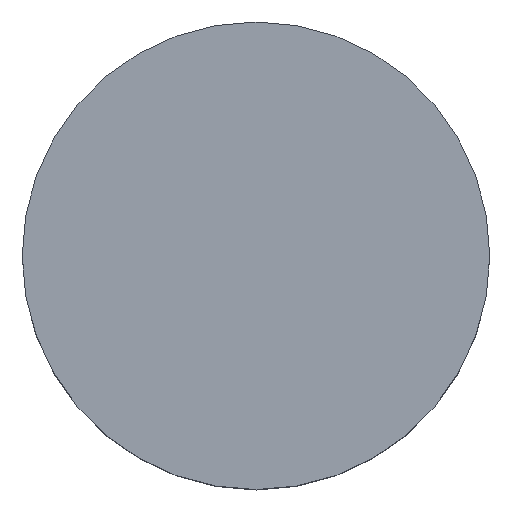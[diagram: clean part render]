
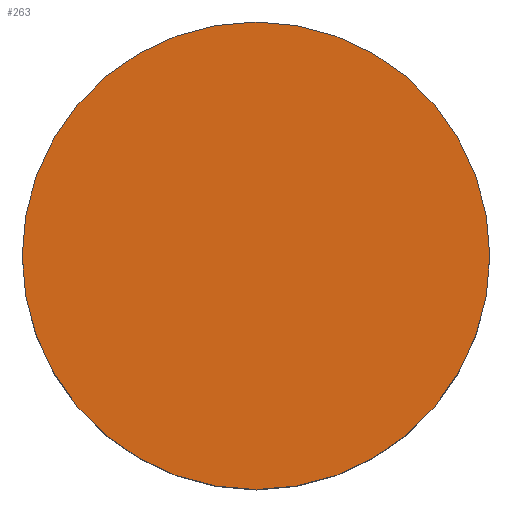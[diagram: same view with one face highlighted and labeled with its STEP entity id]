
A CAD part, top view. The second image highlights one B-rep face of the part: STEP entity #263.
In plain terms, the highlighted planar face has unit normal (0, 0, 1).
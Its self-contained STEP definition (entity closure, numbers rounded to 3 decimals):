
#32=PLANE('',#315);
#70=FACE_OUTER_BOUND('',#101,.T.);
#101=EDGE_LOOP('',(#222));
#131=CIRCLE('',#314,28.5);
#153=VERTEX_POINT('',#478);
#179=EDGE_CURVE('',#153,#153,#131,.T.);
#222=ORIENTED_EDGE('',*,*,#179,.T.);
#263=ADVANCED_FACE('',(#70),#32,.T.);
#314=AXIS2_PLACEMENT_3D('',#479,#405,#406);
#315=AXIS2_PLACEMENT_3D('',#480,#407,#408);
#405=DIRECTION('center_axis',(0.,0.,1.));
#406=DIRECTION('ref_axis',(-1.,0.,0.));
#407=DIRECTION('center_axis',(0.,0.,1.));
#408=DIRECTION('ref_axis',(1.,0.,0.));
#478=CARTESIAN_POINT('',(28.5,0.,32.));
#479=CARTESIAN_POINT('Origin',(0.,0.,32.));
#480=CARTESIAN_POINT('Origin',(0.,0.,
32.));
